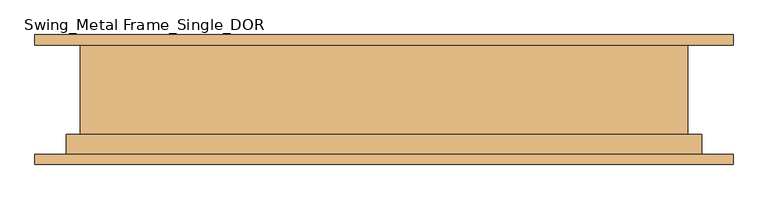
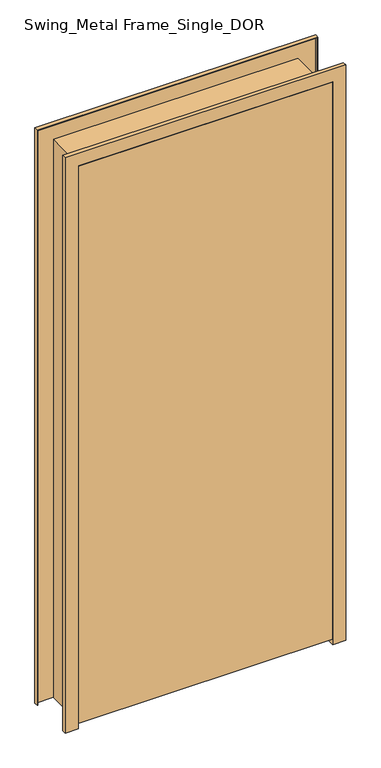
"""IFC4 building model written with IfcOpenShell, lengths in millimetres: door geometry, Swing_Metal Frame_Single_DOR : 2140h x 920 (2210x1010 BLK)."""

from ifc_helpers import new_model, si_unit, frame, origin, place, context, project, spatial, polyline, outline, extrude, faceted_brep, source, transform, mapped, element, save


def swing_metal_frame_single_dor_f6efc24d(model_context):
    return source(origin(), model_context, "Body", "SolidModel", [
        extrude(outline(polyline([(460.0, -65.0), (-460.0, -65.0), (-460.0, -25.0), (460.0, -25.0), (460.0, -65.0)])), frame((0.0, 0.0, 20.0), z_axis=(0.0, 0.0, 1.0), x_axis=(1.0, 0.0, 0.0)), (0.0, 0.0, 1.0), 2140.0),
        faceted_brep([(-510.0, 125.0, 0.0), (-442.0, 125.0, 0.0), (-442.0, -23.0, 0.0), (-462.0, -23.0, 0.0), (-462.0, -65.0, 0.0), (-510.0, -65.0, 0.0), (-510.0, -50.0, 0.0), (-508.0, -50.0, 0.0), (-508.0, -63.0, 0.0), (-464.0, -63.0, 0.0), (-464.0, -21.0, 0.0), (-444.0, -21.0, 0.0), (-444.0, 123.0, 0.0), (-508.0, 123.0, 0.0), (-508.0, 110.0, 0.0), (-510.0, 110.0, 0.0), (-510.0, 110.0, 2210.0), (-510.0, 125.0, 2210.0), (-508.0, 110.0, 2208.0), (508.0, 110.0, 2208.0), (508.0, 110.0, 0.0), (510.0, 110.0, 0.0), (510.0, 110.0, 2210.0), (-508.0, 123.0, 2208.0), (-444.0, 123.0, 2144.0), (444.0, 123.0, 2144.0), (444.0, 123.0, 0.0), (508.0, 123.0, 0.0), (508.0, 123.0, 2208.0), (-444.0, -21.0, 2144.0), (-464.0, -21.0, 2164.0), (464.0, -21.0, 2164.0), (464.0, -21.0, 0.0), (444.0, -21.0, 0.0), (444.0, -21.0, 2144.0), (-464.0, -63.0, 2164.0), (-508.0, -63.0, 2208.0), (508.0, -63.0, 2208.0), (508.0, -63.0, 0.0), (464.0, -63.0, 0.0), (464.0, -63.0, 2164.0), (-508.0, -50.0, 2208.0), (-510.0, -50.0, 2210.0), (510.0, -50.0, 2210.0), (510.0, -50.0, 0.0), (508.0, -50.0, 0.0), (508.0, -50.0, 2208.0), (-510.0, -65.0, 2210.0), (-462.0, -65.0, 2162.0), (462.0, -65.0, 2162.0), (462.0, -65.0, 0.0), (510.0, -65.0, 0.0), (510.0, -65.0, 2210.0), (-462.0, -23.0, 2162.0), (-442.0, -23.0, 2142.0), (442.0, -23.0, 2142.0), (442.0, -23.0, 0.0), (462.0, -23.0, 0.0), (462.0, -23.0, 2162.0), (-442.0, 125.0, 2142.0), (510.0, 125.0, 2210.0), (510.0, 125.0, 0.0), (442.0, 125.0, 0.0), (442.0, 125.0, 2142.0)], [[[0, 1, 2, 3, 4, 5, 6, 7, 8, 9, 10, 11, 12, 13, 14, 15]], [[15, 16, 17, 0]], [[14, 18, 19, 20, 21, 22, 16, 15]], [[13, 23, 18, 14]], [[12, 24, 25, 26, 27, 28, 23, 13]], [[11, 29, 24, 12]], [[10, 30, 31, 32, 33, 34, 29, 11]], [[9, 35, 30, 10]], [[8, 36, 37, 38, 39, 40, 35, 9]], [[7, 41, 36, 8]], [[6, 42, 43, 44, 45, 46, 41, 7]], [[5, 47, 42, 6]], [[4, 48, 49, 50, 51, 52, 47, 5]], [[3, 53, 48, 4]], [[2, 54, 55, 56, 57, 58, 53, 3]], [[1, 59, 54, 2]], [[0, 17, 60, 61, 62, 63, 59, 1]], [[22, 21, 61, 60]], [[61, 21, 20, 27, 26, 33, 32, 39, 38, 45, 44, 51, 50, 57, 56, 62]], [[28, 27, 20, 19]], [[34, 33, 26, 25]], [[40, 39, 32, 31]], [[46, 45, 38, 37]], [[52, 51, 44, 43]], [[58, 57, 50, 49]], [[63, 62, 56, 55]], [[16, 22, 60, 17]], [[23, 28, 19, 18]], [[29, 34, 25, 24]], [[35, 40, 31, 30]], [[41, 46, 37, 36]], [[47, 52, 43, 42]], [[53, 58, 49, 48]], [[59, 63, 55, 54]]]),
    ])


if __name__ == "__main__":
    model = new_model("IFC4")
    model_context = context("Model", 3, world=origin())
    ifc_project = project(units=[si_unit("LENGTHUNIT", "METRE", prefix="MILLI")], contexts=[model_context])
    site = spatial("IfcSite", under=ifc_project)
    building = spatial("IfcBuilding", under=site)
    placement = place(None, origin())
    swing_metal_frame_single_dor_shape = swing_metal_frame_single_dor_f6efc24d(model_context)
    element("IfcDoor", 1, ObjectType="Swing_Metal Frame_Single_DOR : 2140h x 920 (2210x1010 BLK)", at=placement, inside=building, context=model_context, shape_type="MappedRepresentation", body=[
        mapped(swing_metal_frame_single_dor_shape, transform((0.0, 0.0, 0.0), x_axis=(1.0, 0.0, 0.0), y_axis=(0.0, 1.0, 0.0), z_axis=(0.0, 0.0, 1.0))),
    ])
    save(model, "model.ifc")
